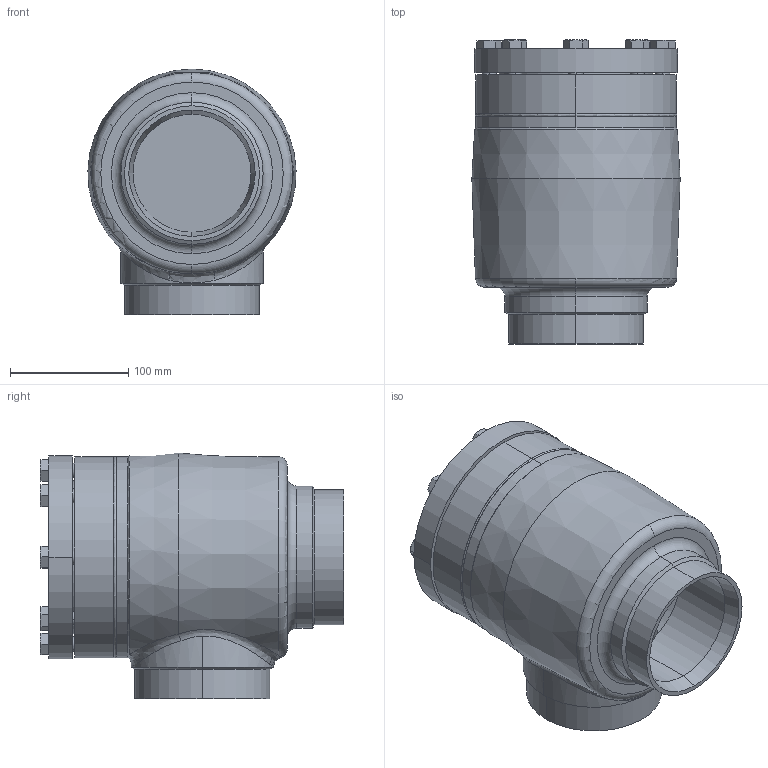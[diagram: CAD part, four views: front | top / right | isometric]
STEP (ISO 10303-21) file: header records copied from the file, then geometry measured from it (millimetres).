
FILE_DESCRIPTION (( 'STEP AP214' ), '1' );
FILE_NAME ('SS52400D19-DN100_R1_PS40.STEP', '2007-01-08T09:52:35', ( 'Herr Grams' ), ( 'AWP GmbH' ), 'SwSTEP 2.0', 'SolidWorks 2002296', '' );
FILE_SCHEMA (( 'AUTOMOTIVE_DESIGN' ));
Length unit declared in the file: millimetre
Products named in the file (8): SS52400D19-DN100_R1_PS40; SS52300E19_Deck+Schr-DN100_Standard; Deckel52300E19-DN100_Standard; Sechskantschraube-DIN933_M12x 35; Gehäuse-kpl16400-DN100_R1_Standard; Gehäuse16400-DN100_Standard; Kopfstück16300-DN100_Standard; bead-DN100-1_Standard
Assembly tree (14 placements, depth 3):
  SS52400D19-DN100_R1_PS40
    Gehäuse-kpl16400-DN100_R1_Standard
      bead-DN100-1_Standard
      Kopfstück16300-DN100_Standard
      Gehäuse16400-DN100_Standard
    SS52300E19_Deck+Schr-DN100_Standard
      Sechskantschraube-DIN933_M12x 35  x8
      Deckel52300E19-DN100_Standard
Bounding box: 176.38 x 257.5 x 208.23 mm (x, y, z)
Volume: 2341198.7 mm3; surface area: 381616.2 mm2
Topology: 12 solids, 12 shells, 285 faces, 614 edges, 365 vertices
Faces by surface type: cone 124, plane 86, cylinder 61, bspline 10, torus 4
Entity records: 15297 total; most frequent: CARTESIAN_POINT 12225, DIRECTION 553, ORIENTED_EDGE 500, EDGE_CURVE 250, AXIS2_PLACEMENT_3D 245, VERTEX_POINT 155, EDGE_LOOP 139, CIRCLE 126
